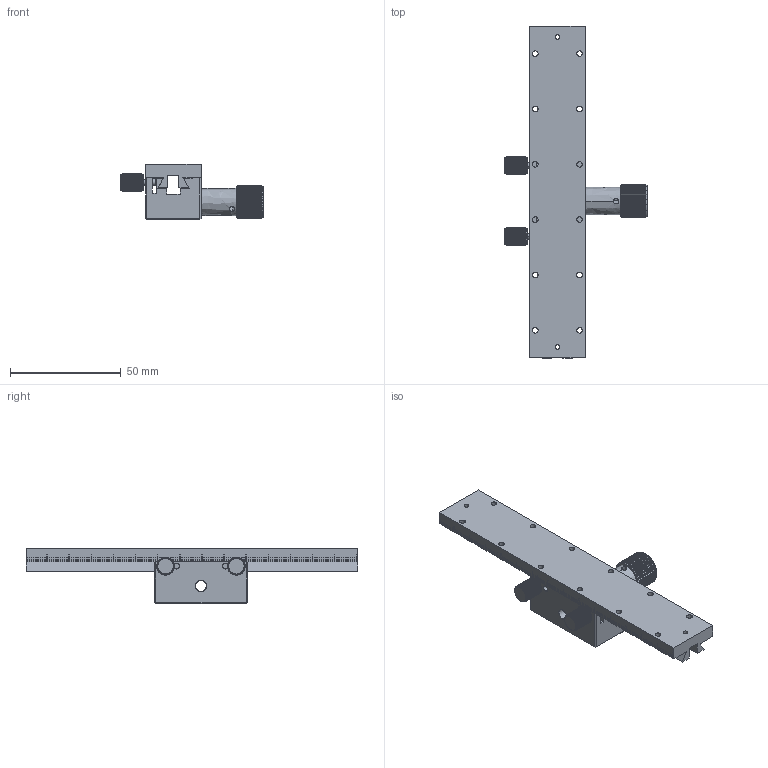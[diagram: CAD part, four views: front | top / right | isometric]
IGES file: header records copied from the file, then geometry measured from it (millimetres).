
Start section: SolidWorks IGES file using analytic representation for surfaces
Bounding box: 64.21 x 150 x 25 mm (x, y, z)
Surface area: 25995.9 mm2 (no closed solid volume)
Topology: 0 solids, 0 shells, 1479 faces, 11102 edges, 11082 vertices
Faces by surface type: bspline 1037, revolution 442
